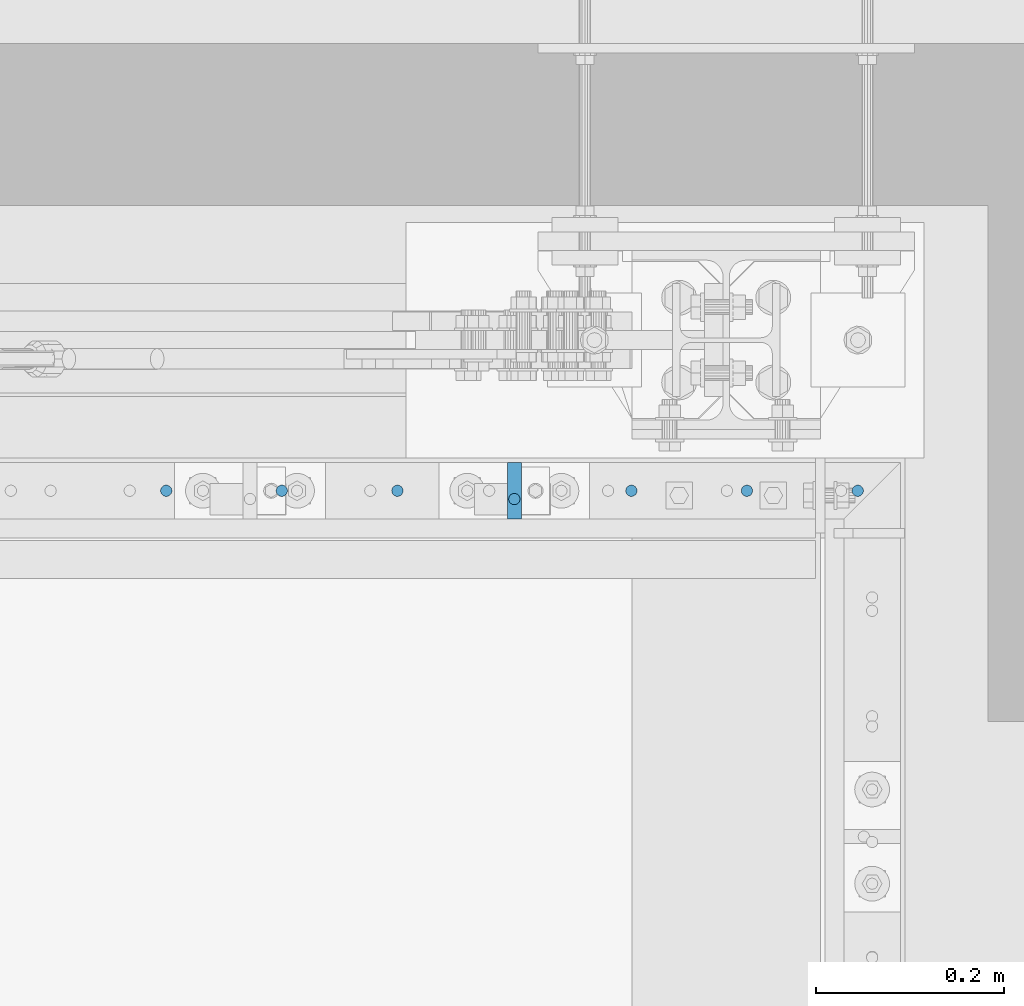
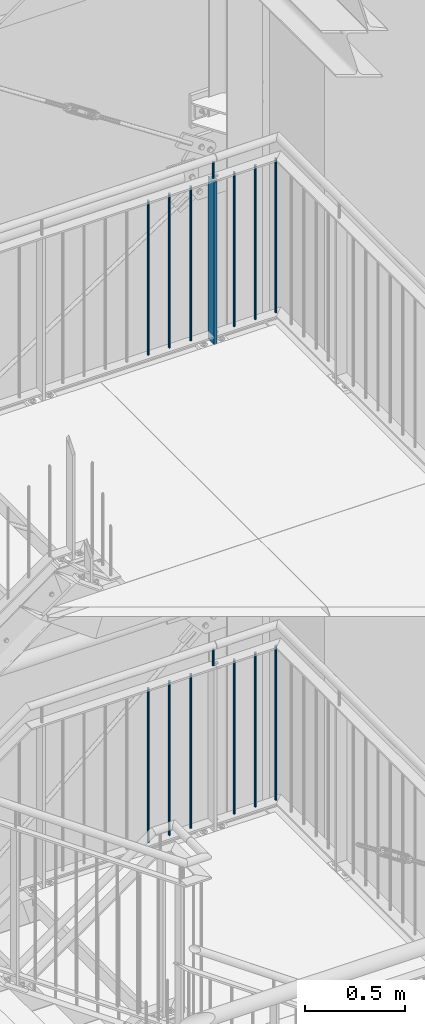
# One storey, part 113 of 831: 15 columns.
"""IFC2X3 building model written with IfcOpenShell, lengths in millimetres."""

from ifc_helpers import new_model, entity, si_unit, converted_unit, frame, origin, origin_with_axes, origin_2d, place, context, project, spatial, rectangle, circle, extrude, clip, halfspace, material, element, save


model = new_model("IFC2X3")

# Units and contexts
model_context = context("Model", 3, precision=1e-09, world=origin_with_axes())
ifc_project = project(units=[si_unit("LENGTHUNIT", "METRE", prefix="MILLI"), si_unit("AREAUNIT", "SQUARE_METRE"), si_unit("VOLUMEUNIT", "CUBIC_METRE"), converted_unit("PLANEANGLEUNIT", "DEGREE", entity("IfcPlaneAngleMeasure", 0.01745329), si_unit("PLANEANGLEUNIT", "RADIAN"), dimensions=[0, 0, 0, 0, 0, 0, 0])], contexts=[model_context])

# Site, building, storey
site_placement = place(None, origin_with_axes())
site = spatial("IfcSite", under=ifc_project, at=site_placement, Name="Site", CompositionType="ELEMENT")
building_placement = place(site_placement, origin_with_axes())
building = spatial("IfcBuilding", under=site, at=building_placement, Name="Struktur 1", CompositionType="ELEMENT")
storey_placement = place(building_placement, origin_with_axes())
storey = spatial("IfcBuildingStorey", under=building, at=storey_placement, Name="Default Storey", CompositionType="ELEMENT", Elevation=0.0)

# Columns
ifc_material = material(Name="S235JR")
column_1_placement = place(None, frame((8271.963926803, 7356.736971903, 6697.180018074), z_axis=(0.0, 0.0, 1.0), x_axis=(1.0, 0.0, 0.0)))
element("IfcColumn", 1, at=column_1_placement, inside=storey, material=ifc_material, Name="Railing_Picket_Landing#25", ObjectType="Railing_Picket_Landing#25", context=model_context, shape_type="Clipping", body=[
    clip(clip(extrude(circle(Radius=6.0, at=origin_2d()), origin(), (0.0, 0.0, -1.0), 965.770562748), halfspace(frame((-8271.963926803, -7356.736971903, -13.486281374), z_axis=(0.0, 0.0, -1.0), x_axis=(-1.0, 0.0, 0.0)), True)), halfspace(frame((-8271.963926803, -7356.736971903, -952.284281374), z_axis=(0.0, 0.0, 1.0), x_axis=(1.0, 0.0, 0.0)), True)),
])
column_2_placement = place(None, frame((8394.713950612, 7356.736971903, 6697.180018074), z_axis=(0.0, 0.0, 1.0), x_axis=(1.0, 0.0, 0.0)))
element("IfcColumn", 2, at=column_2_placement, inside=storey, material=ifc_material, Name="Railing_Picket_Landing#26", ObjectType="Railing_Picket_Landing#26", context=model_context, shape_type="Clipping", body=[
    clip(clip(extrude(circle(Radius=6.0, at=origin_2d()), origin(), (0.0, 0.0, -1.0), 965.770562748), halfspace(frame((-8394.713950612, -7356.736971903, -13.486281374), z_axis=(0.0, 0.0, -1.0), x_axis=(-1.0, 0.0, 0.0)), True)), halfspace(frame((-8394.713950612, -7356.736971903, -952.284281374), z_axis=(0.0, 0.0, 1.0), x_axis=(1.0, 0.0, 0.0)), True)),
])
column_3_placement = place(None, frame((8517.463974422, 7356.736971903, 6697.180018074), z_axis=(0.0, 0.0, 1.0), x_axis=(1.0, 0.0, 0.0)))
element("IfcColumn", 3, at=column_3_placement, inside=storey, material=ifc_material, Name="Railing_Picket_Landing#27", ObjectType="Railing_Picket_Landing#27", context=model_context, shape_type="Clipping", body=[
    clip(clip(extrude(circle(Radius=6.0, at=origin_2d()), origin(), (0.0, 0.0, -1.0), 965.770562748), halfspace(frame((-8517.463974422, -7356.736971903, -13.486281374), z_axis=(0.0, 0.0, -1.0), x_axis=(-1.0, 0.0, 0.0)), True)), halfspace(frame((-8517.463974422, -7356.736971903, -952.284281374), z_axis=(0.0, 0.0, 1.0), x_axis=(1.0, 0.0, 0.0)), True)),
])
column_4_placement = place(None, frame((8765.963974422, 7356.736971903, 6697.180018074), z_axis=(0.0, 0.0, 1.0), x_axis=(1.0, 0.0, 0.0)))
element("IfcColumn", 4, at=column_4_placement, inside=storey, material=ifc_material, Name="Railing_Picket_Landing#28", ObjectType="Railing_Picket_Landing#28", context=model_context, shape_type="Clipping", body=[
    clip(clip(extrude(circle(Radius=6.0, at=origin_2d()), origin(), (0.0, 0.0, -1.0), 965.770562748), halfspace(frame((-8765.963974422, -7356.736971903, -13.486281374), z_axis=(0.0, 0.0, -1.0), x_axis=(-1.0, 0.0, 0.0)), True)), halfspace(frame((-8765.963974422, -7356.736971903, -952.284281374), z_axis=(0.0, 0.0, 1.0), x_axis=(1.0, 0.0, 0.0)), True)),
])
column_5_placement = place(None, frame((8888.713998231, 7356.736971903, 6697.180018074), z_axis=(0.0, 0.0, 1.0), x_axis=(1.0, 0.0, 0.0)))
element("IfcColumn", 5, at=column_5_placement, inside=storey, material=ifc_material, Name="Railing_Picket_Landing#29", ObjectType="Railing_Picket_Landing#29", context=model_context, shape_type="Clipping", body=[
    clip(clip(extrude(circle(Radius=6.0, at=origin_2d()), origin(), (0.0, 0.0, -1.0), 965.770562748), halfspace(frame((-8888.713998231, -7356.736971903, -13.486281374), z_axis=(0.0, 0.0, -1.0), x_axis=(-1.0, 0.0, 0.0)), True)), halfspace(frame((-8888.713998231, -7356.736971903, -952.284281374), z_axis=(0.0, 0.0, 1.0), x_axis=(1.0, 0.0, 0.0)), True)),
])
column_6_placement = place(None, frame((9006.464022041, 7356.736971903, 6697.180018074), z_axis=(0.0, 0.0, 1.0), x_axis=(1.0, 0.0, 0.0)))
element("IfcColumn", 6, at=column_6_placement, inside=storey, material=ifc_material, Name="Railing_Picket_Landing#30", ObjectType="Railing_Picket_Landing#30", context=model_context, shape_type="Clipping", body=[
    clip(clip(extrude(circle(Radius=6.0, at=origin_2d()), origin(), (0.0, 0.0, -1.0), 965.770562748), halfspace(frame((-9006.464022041, -7356.736971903, -13.486281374), z_axis=(0.0, 0.0, -1.0), x_axis=(-1.0, 0.0, 0.0)), True)), halfspace(frame((-9006.464022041, -7356.736971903, -952.284281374), z_axis=(0.0, 0.0, 1.0), x_axis=(1.0, 0.0, 0.0)), True)),
])
column_7_placement = place(None, frame((8641.713974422, 7347.936971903, 6802.180018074), z_axis=(0.0, 0.0, 1.0), x_axis=(0.0, -1.0, 0.0)))
element("IfcColumn", 7, at=column_7_placement, inside=storey, material=ifc_material, Name="Bar#4", ObjectType="Bar#4", context=model_context, shape_type="Clipping", body=[
    clip(clip(extrude(circle(Radius=6.0, at=origin_2d()), origin(), (0.0, 0.0, -1.0), 116.970562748), halfspace(frame((7347.936971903, -8641.713974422, -8.486281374), z_axis=(0.0, 0.0, -1.0), x_axis=(0.0, -1.0, 0.0)), True)), halfspace(frame((7347.936971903, -8641.713974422, -108.484281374), z_axis=(0.0, 0.0, 1.0), x_axis=(0.0, 1.0, 0.0)), True)),
])
column_8_placement = place(None, frame((8271.963926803, 7356.736971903, 9658.285281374), z_axis=(0.0, 0.0, 1.0), x_axis=(1.0, 0.0, 0.0)))
element("IfcColumn", 8, at=column_8_placement, inside=storey, material=ifc_material, Name="Railing_Picket_Landing#25", ObjectType="Railing_Picket_Landing#25", context=model_context, shape_type="Clipping", body=[
    clip(clip(extrude(circle(Radius=6.0, at=origin_2d()), origin(), (0.0, 0.0, -1.0), 965.770562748), halfspace(frame((-8271.963926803, -7356.736971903, -13.486281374), z_axis=(0.0, 0.0, -1.0), x_axis=(-1.0, 0.0, 0.0)), True)), halfspace(frame((-8271.963926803, -7356.736971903, -952.284281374), z_axis=(0.0, 0.0, 1.0), x_axis=(1.0, 0.0, 0.0)), True)),
])
column_9_placement = place(None, frame((8394.713950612, 7356.736971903, 9658.285281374), z_axis=(0.0, 0.0, 1.0), x_axis=(1.0, 0.0, 0.0)))
element("IfcColumn", 9, at=column_9_placement, inside=storey, material=ifc_material, Name="Railing_Picket_Landing#26", ObjectType="Railing_Picket_Landing#26", context=model_context, shape_type="Clipping", body=[
    clip(clip(extrude(circle(Radius=6.0, at=origin_2d()), origin(), (0.0, 0.0, -1.0), 965.770562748), halfspace(frame((-8394.713950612, -7356.736971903, -13.486281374), z_axis=(0.0, 0.0, -1.0), x_axis=(-1.0, 0.0, 0.0)), True)), halfspace(frame((-8394.713950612, -7356.736971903, -952.284281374), z_axis=(0.0, 0.0, 1.0), x_axis=(1.0, 0.0, 0.0)), True)),
])
column_10_placement = place(None, frame((8517.463974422, 7356.736971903, 9658.285281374), z_axis=(0.0, 0.0, 1.0), x_axis=(1.0, 0.0, 0.0)))
element("IfcColumn", 10, at=column_10_placement, inside=storey, material=ifc_material, Name="Railing_Picket_Landing#27", ObjectType="Railing_Picket_Landing#27", context=model_context, shape_type="Clipping", body=[
    clip(clip(extrude(circle(Radius=6.0, at=origin_2d()), origin(), (0.0, 0.0, -1.0), 965.770562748), halfspace(frame((-8517.463974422, -7356.736971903, -13.486281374), z_axis=(0.0, 0.0, -1.0), x_axis=(-1.0, 0.0, 0.0)), True)), halfspace(frame((-8517.463974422, -7356.736971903, -952.284281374), z_axis=(0.0, 0.0, 1.0), x_axis=(1.0, 0.0, 0.0)), True)),
])
column_11_placement = place(None, frame((8765.963974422, 7356.736971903, 9658.285281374), z_axis=(0.0, 0.0, 1.0), x_axis=(1.0, 0.0, 0.0)))
element("IfcColumn", 11, at=column_11_placement, inside=storey, material=ifc_material, Name="Railing_Picket_Landing#28", ObjectType="Railing_Picket_Landing#28", context=model_context, shape_type="Clipping", body=[
    clip(clip(extrude(circle(Radius=6.0, at=origin_2d()), origin(), (0.0, 0.0, -1.0), 965.770562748), halfspace(frame((-8765.963974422, -7356.736971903, -13.486281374), z_axis=(0.0, 0.0, -1.0), x_axis=(-1.0, 0.0, 0.0)), True)), halfspace(frame((-8765.963974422, -7356.736971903, -952.284281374), z_axis=(0.0, 0.0, 1.0), x_axis=(1.0, 0.0, 0.0)), True)),
])
column_12_placement = place(None, frame((8888.713998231, 7356.736971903, 9658.285281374), z_axis=(0.0, 0.0, 1.0), x_axis=(1.0, 0.0, 0.0)))
element("IfcColumn", 12, at=column_12_placement, inside=storey, material=ifc_material, Name="Railing_Picket_Landing#29", ObjectType="Railing_Picket_Landing#29", context=model_context, shape_type="Clipping", body=[
    clip(clip(extrude(circle(Radius=6.0, at=origin_2d()), origin(), (0.0, 0.0, -1.0), 965.770562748), halfspace(frame((-8888.713998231, -7356.736971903, -13.486281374), z_axis=(0.0, 0.0, -1.0), x_axis=(-1.0, 0.0, 0.0)), True)), halfspace(frame((-8888.713998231, -7356.736971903, -952.284281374), z_axis=(0.0, 0.0, 1.0), x_axis=(1.0, 0.0, 0.0)), True)),
])
column_13_placement = place(None, frame((9006.464022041, 7356.736971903, 9658.285281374), z_axis=(0.0, 0.0, 1.0), x_axis=(1.0, 0.0, 0.0)))
element("IfcColumn", 13, at=column_13_placement, inside=storey, material=ifc_material, Name="Railing_Picket_Landing#30", ObjectType="Railing_Picket_Landing#30", context=model_context, shape_type="Clipping", body=[
    clip(clip(extrude(circle(Radius=6.0, at=origin_2d()), origin(), (0.0, 0.0, -1.0), 965.770562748), halfspace(frame((-9006.464022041, -7356.736971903, -13.486281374), z_axis=(0.0, 0.0, -1.0), x_axis=(-1.0, 0.0, 0.0)), True)), halfspace(frame((-9006.464022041, -7356.736971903, -952.284281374), z_axis=(0.0, 0.0, 1.0), x_axis=(1.0, 0.0, 0.0)), True)),
])
column_14_placement = place(None, frame((8641.713974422, 7347.936971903, 9763.285281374), z_axis=(0.0, 0.0, 1.0), x_axis=(0.0, -1.0, 0.0)))
element("IfcColumn", 14, at=column_14_placement, inside=storey, material=ifc_material, Name="Bar#4", ObjectType="Bar#4", context=model_context, shape_type="Clipping", body=[
    clip(clip(extrude(circle(Radius=6.0, at=origin_2d()), origin(), (0.0, 0.0, -1.0), 116.970562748), halfspace(frame((7347.936971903, -8641.713974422, -8.486281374), z_axis=(0.0, 0.0, -1.0), x_axis=(0.0, -1.0, 0.0)), True)), halfspace(frame((7347.936971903, -8641.713974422, -108.484281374), z_axis=(0.0, 0.0, 1.0), x_axis=(0.0, 1.0, 0.0)), True)),
])
column_15_placement = place(None, frame((8641.713974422, 7356.736971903, 9675.723292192), z_axis=(0.0, 0.0, 1.0), x_axis=(1.0, 0.0, 0.0)))
element("IfcColumn", 15, at=column_15_placement, inside=storey, material=ifc_material, Name="Railing_Post_Landing#4", ObjectType="Railing_Post_Landing#4", context=model_context, shape_type="Clipping", body=[
    clip(clip(extrude(rectangle(XDim=15.0, YDim=60.0, at=origin_2d()), origin(), (0.0, 0.0, -1.0), 1070.646584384), halfspace(frame((-8641.713974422, -7356.736971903, -1019.722292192), z_axis=(0.0, 0.0, 1.0), x_axis=(1.0, 0.0, 0.0)), True)), halfspace(frame((-8641.713974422, -7356.736971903, -30.924292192), z_axis=(0.0, 0.0, -1.0), x_axis=(-1.0, 0.0, 0.0)), True)),
])

save(model, "model.ifc")
